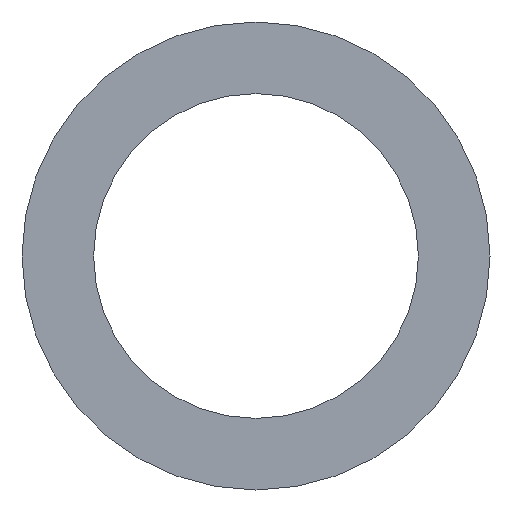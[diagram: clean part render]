
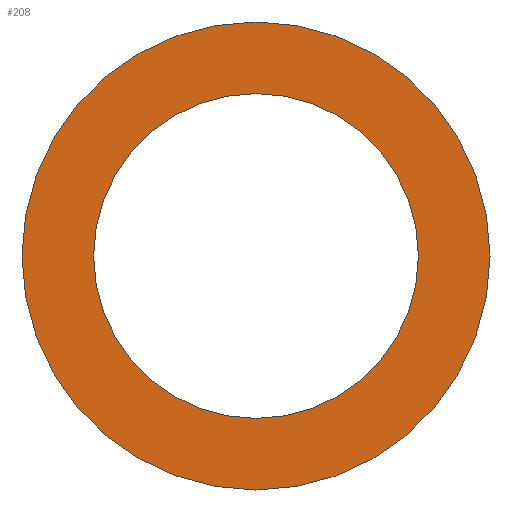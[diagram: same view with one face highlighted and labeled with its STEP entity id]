
A CAD part, left-side view. The second image highlights one B-rep face of the part: STEP entity #208.
In plain terms, the highlighted planar face has unit normal (-1, 0, 0).
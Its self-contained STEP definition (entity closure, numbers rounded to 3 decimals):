
#6 = DIRECTION ( 'NONE',  ( 1., 0., 0. ) ) ;
#47 = AXIS2_PLACEMENT_3D ( 'NONE', #316, #129, #431 ) ;
#57 = ORIENTED_EDGE ( 'NONE', *, *, #442, .T. ) ;
#82 = CIRCLE ( 'NONE', #47, 17. ) ;
#95 = ORIENTED_EDGE ( 'NONE', *, *, #218, .T. ) ;
#103 = DIRECTION ( 'NONE',  ( 0., 0., -1. ) ) ;
#105 = EDGE_CURVE ( 'NONE', #216, #209, #82, .T. ) ;
#120 = FACE_BOUND ( 'NONE', #264, .T. ) ;
#129 = DIRECTION ( 'NONE',  ( 1., 0., 0. ) ) ;
#141 = CARTESIAN_POINT ( 'NONE',  ( 0., -17., 0. ) ) ;
#142 = AXIS2_PLACEMENT_3D ( 'NONE', #256, #332, #179 ) ;
#150 = FACE_OUTER_BOUND ( 'NONE', #351, .T. ) ;
#166 = AXIS2_PLACEMENT_3D ( 'NONE', #178, #440, #284 ) ;
#176 = CIRCLE ( 'NONE', #306, 17. ) ;
#178 = CARTESIAN_POINT ( 'NONE',  ( 0., 0., 0. ) ) ;
#179 = DIRECTION ( 'NONE',  ( 0., 0., 1. ) ) ;
#185 = CARTESIAN_POINT ( 'NONE',  ( 0., 0., -24.5 ) ) ;
#186 = AXIS2_PLACEMENT_3D ( 'NONE', #290, #6, #103 ) ;
#191 = EDGE_CURVE ( 'NONE', #209, #216, #176, .T. ) ;
#202 = ORIENTED_EDGE ( 'NONE', *, *, #191, .T. ) ;
#208 = ADVANCED_FACE ( 'NONE', ( #120, #150 ), #247, .F. ) ;
#209 = VERTEX_POINT ( 'NONE', #141 ) ;
#216 = VERTEX_POINT ( 'NONE', #251 ) ;
#218 = EDGE_CURVE ( 'NONE', #297, #415, #447, .T. ) ;
#247 = PLANE ( 'NONE',  #186 ) ;
#251 = CARTESIAN_POINT ( 'NONE',  ( 0., 17., 0. ) ) ;
#256 = CARTESIAN_POINT ( 'NONE',  ( 0., 0., 0. ) ) ;
#264 = EDGE_LOOP ( 'NONE', ( #455, #202 ) ) ;
#284 = DIRECTION ( 'NONE',  ( 0., 0., 1. ) ) ;
#290 = CARTESIAN_POINT ( 'NONE',  ( 0., 12.5, 0. ) ) ;
#292 = CARTESIAN_POINT ( 'NONE',  ( 0., 0., 0. ) ) ;
#293 = CARTESIAN_POINT ( 'NONE',  ( 0., 0., 24.5 ) ) ;
#297 = VERTEX_POINT ( 'NONE', #293 ) ;
#306 = AXIS2_PLACEMENT_3D ( 'NONE', #292, #367, #365 ) ;
#316 = CARTESIAN_POINT ( 'NONE',  ( 0., 0., 0. ) ) ;
#332 = DIRECTION ( 'NONE',  ( -1., 0., 0. ) ) ;
#351 = EDGE_LOOP ( 'NONE', ( #95, #57 ) ) ;
#365 = DIRECTION ( 'NONE',  ( 0., 1., 0. ) ) ;
#367 = DIRECTION ( 'NONE',  ( 1., 0., 0. ) ) ;
#415 = VERTEX_POINT ( 'NONE', #185 ) ;
#419 = CIRCLE ( 'NONE', #142, 24.5 ) ;
#431 = DIRECTION ( 'NONE',  ( 0., 1., 0. ) ) ;
#440 = DIRECTION ( 'NONE',  ( -1., 0., 0. ) ) ;
#442 = EDGE_CURVE ( 'NONE', #415, #297, #419, .T. ) ;
#447 = CIRCLE ( 'NONE', #166, 24.5 ) ;
#455 = ORIENTED_EDGE ( 'NONE', *, *, #105, .T. ) ;
